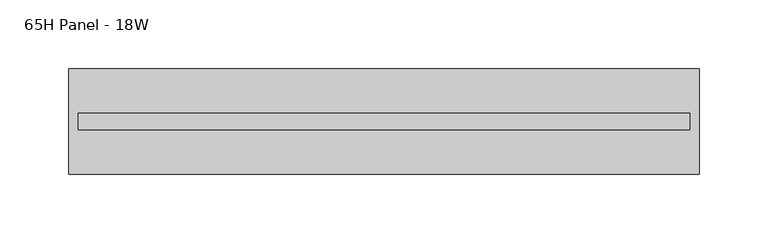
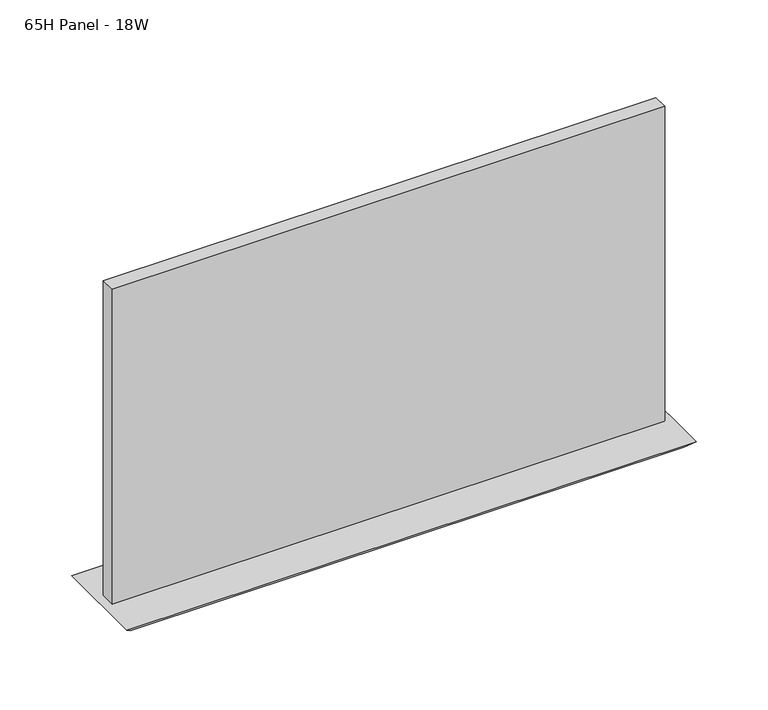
"""IFC4 building model written with IfcOpenShell, lengths in millimetres: furniture geometry, Steelcase - Montage - Tiles - 10H - Frameless Glass Stacker : 65H Panel - 18W."""

import ifcopenshell
import ifcopenshell.guid

model = None  # the IFC model being written
_history = None  # IfcOwnerHistory: only IFC2X3 demands one
_inside = {}  # id of a spatial element -> (the spatial element, [elements in it])
_under = {}  # id of a project, library or spatial element -> (it, [spatial elements below it])
_declared = {}  # id of a project -> (the project, [libraries it declares])
_typed = {}  # id of a type object -> (the type object, [elements of that type])
_made_of = {}  # id of a material, layer set ... -> (it, [elements and type objects made of it])


def new_model(schema):
    """Start an empty IFC model of exactly this schema.

    Asked for "IFC4X3", IfcOpenShell would pick the latest addendum, in which some entities
    have other attributes; the version numbers below select the first issue.
    IFC2X3 requires an IfcOwnerHistory on every rooted entity: one is made here for all.
    """
    global model, _history
    if schema == "IFC4X3":
        model = ifcopenshell.file(schema_version=(4, 3, 0, 0))
    else:
        model = ifcopenshell.file(schema=schema)
    _inside.clear()
    _under.clear()
    _declared.clear()
    _typed.clear()
    _made_of.clear()
    _history = None
    if model.schema == "IFC2X3":
        org = make("IfcOrganization", Name="unknown")
        user = make(
            "IfcPersonAndOrganization",
            ThePerson=make("IfcPerson", FamilyName="unknown"),
            TheOrganization=org,
        )
        app = make(
            "IfcApplication",
            ApplicationDeveloper=org,
            Version="unknown",
            ApplicationFullName="unknown",
            ApplicationIdentifier="unknown",
        )
        _history = make(
            "IfcOwnerHistory",
            OwningUser=user,
            OwningApplication=app,
            ChangeAction="ADDED",
            CreationDate=0,
        )
    return model


def make(cls, **values):
    """One entity of the class cls with the attributes given. An attribute that is None is left unset."""
    return model.create_entity(
        cls, **{name: value for name, value in values.items() if value is not None}
    )


def rooted(cls, **values):
    """An entity with a GlobalId (a new one), such as an element, a storey or a relation."""
    return make(cls, GlobalId=ifcopenshell.guid.new(), OwnerHistory=_history, **values)


def si_unit(unit_type, name, prefix=None):
    """IfcSIUnit, for example si_unit("LENGTHUNIT", "METRE", prefix="MILLI")."""
    return make("IfcSIUnit", UnitType=unit_type, Prefix=prefix, Name=name)


def assignment(units):
    """IfcUnitAssignment: the units of a project."""
    return None if units is None else make("IfcUnitAssignment", Units=units)


def point(xyz):
    """IfcCartesianPoint."""
    return None if xyz is None else make("IfcCartesianPoint", Coordinates=xyz)


def direction(xyz):
    """IfcDirection."""
    return None if xyz is None else make("IfcDirection", DirectionRatios=xyz)


def frame(location, z_axis=None, x_axis=None):
    """IfcAxis2Placement3D, a coordinate frame: its origin and axes. An axis left out is left unset."""
    return make(
        "IfcAxis2Placement3D",
        Location=point(location),
        Axis=direction(z_axis),
        RefDirection=direction(x_axis),
    )


def origin():
    """The frame at (0, 0, 0) with its axes left unset."""
    return frame((0.0, 0.0, 0.0))


def place(relative_to, where):
    """IfcLocalPlacement: puts the frame where relative to a parent placement (None: the world)."""
    return make(
        "IfcLocalPlacement", PlacementRelTo=relative_to, RelativePlacement=where
    )


def context(
    kind, dimensions, precision=None, world=None, true_north=None, identifier=None
):
    """IfcGeometricRepresentationContext, for example the 3D "Model" context."""
    return make(
        "IfcGeometricRepresentationContext",
        ContextIdentifier=identifier,
        ContextType=kind,
        CoordinateSpaceDimension=dimensions,
        Precision=precision,
        WorldCoordinateSystem=world,
        TrueNorth=true_north,
    )


def project(units=None, contexts=None):
    """IfcProject with its units and contexts."""
    return rooted(
        "IfcProject",
        Name="project",
        RepresentationContexts=contexts,
        UnitsInContext=assignment(units),
    )


def spatial(cls, under=None, at=None, **own):
    """A site, building, storey or space (cls), placed at a placement, below another one or the project."""
    s = rooted(cls, ObjectPlacement=at, **own)
    if under is not None:
        _under.setdefault(under.id(), (under, []))[1].append(s)
    return s


def polyline(points):
    """IfcPolyline through the points."""
    return make("IfcPolyline", Points=[point(p) for p in points])


def outline(outer, holes=None, kind="AREA"):
    """IfcArbitraryClosedProfileDef: a profile drawn as a closed curve; with holes, ...WithVoids."""
    if holes is None:
        return make("IfcArbitraryClosedProfileDef", ProfileType=kind, OuterCurve=outer)
    return make(
        "IfcArbitraryProfileDefWithVoids",
        ProfileType=kind,
        OuterCurve=outer,
        InnerCurves=holes,
    )


def extrude(swept, where, along, depth):
    """IfcExtrudedAreaSolid: the profile swept, set in the frame where, extruded along a direction by depth."""
    return make(
        "IfcExtrudedAreaSolid",
        SweptArea=swept,
        Position=where,
        ExtrudedDirection=direction(along),
        Depth=depth,
    )


def faces_of(points, faces, orient=None, outer=None):
    """IfcFace entities. A face is a list of loops; a loop is a list of indices into points, from 0.

    orient and outer hold one flag for each loop. By default every Orientation is true, the
    first loop of a face is its IfcFaceOuterBound and the others are IfcFaceBound.
    """
    made = []
    for i, loops in enumerate(faces):
        bounds = []
        for j, loop in enumerate(loops):
            is_outer = j == 0 if outer is None else outer[i][j]
            bounds.append(
                make(
                    "IfcFaceOuterBound" if is_outer else "IfcFaceBound",
                    Bound=make("IfcPolyLoop", Polygon=[points[k] for k in loop]),
                    Orientation=True if orient is None else orient[i][j],
                )
            )
        made.append(make("IfcFace", Bounds=bounds))
    return made


def faceted_brep(points, faces, orient=None, outer=None, voids=None):
    """IfcFacetedBrep: a solid bounded by flat faces; with voids (closed shells), ...WithVoids."""
    shared = [point(p) for p in points]
    hull = make("IfcClosedShell", CfsFaces=faces_of(shared, faces, orient, outer))
    if voids is None:
        return make("IfcFacetedBrep", Outer=hull)
    return make(
        "IfcFacetedBrepWithVoids",
        Outer=hull,
        Voids=[
            make(cls, CfsFaces=faces_of(shared, fs, o, b)) for cls, fs, o, b in voids
        ],
    )


def shape(context_of_items, identifier, shape_type, items):
    """IfcShapeRepresentation: the items that make up one representation, for example the "Body"."""
    return make(
        "IfcShapeRepresentation",
        ContextOfItems=context_of_items,
        RepresentationIdentifier=identifier,
        RepresentationType=shape_type,
        Items=items,
    )


def source(mapping_origin, context_of_items, identifier, shape_type, items):
    """IfcRepresentationMap: a shape defined once, which mapped items show again and again."""
    return make(
        "IfcRepresentationMap",
        MappingOrigin=mapping_origin,
        MappedRepresentation=shape(context_of_items, identifier, shape_type, items),
    )


def transform(
    local_origin,
    x_axis=None,
    y_axis=None,
    z_axis=None,
    scale=None,
    scale2=None,
    scale3=None,
    uniform=True,
):
    """IfcCartesianTransformationOperator3D, or its non-uniform kind. x_axis, y_axis, z_axis: its Axis1, 2, 3."""
    if uniform:
        return make(
            "IfcCartesianTransformationOperator3D",
            Axis1=direction(x_axis),
            Axis2=direction(y_axis),
            LocalOrigin=point(local_origin),
            Scale=scale,
            Axis3=direction(z_axis),
        )
    return make(
        "IfcCartesianTransformationOperator3DnonUniform",
        Axis1=direction(x_axis),
        Axis2=direction(y_axis),
        LocalOrigin=point(local_origin),
        Scale=scale,
        Axis3=direction(z_axis),
        Scale2=scale2,
        Scale3=scale3,
    )


def mapped(mapping_source, mapping_target):
    """IfcMappedItem: shows the shape of a source again, moved by a transform."""
    return make(
        "IfcMappedItem", MappingSource=mapping_source, MappingTarget=mapping_target
    )


def made_of(thing, what):
    """Note that an element or type object is made of a material, layer set ...; save() writes the relation."""
    if what is not None:
        _made_of.setdefault(what.id(), (what, []))[1].append(thing)
    return thing


def element(
    cls,
    number,
    at=None,
    inside=None,
    cuts=None,
    type_object=None,
    material=None,
    context=None,
    identifier="Body",
    shape_type=None,
    held_by="IfcProductDefinitionShape",
    body=None,
    shapes=None,
    **own,
):
    """One element of the class cls, such as IfcWall. Its Tag is "e" and its number.

    at: its placement. inside: the storey or other place that contains it. cuts: it is an
    opening in that element (IfcRelVoidsElement). A single representation is given by context,
    identifier, shape_type and body (its items); several are given by shapes. held_by: the class
    of the entity that holds the representations. save() writes the other relations.
    """
    e = rooted(cls, Tag="e%d" % number, ObjectPlacement=at, **own)
    if body is not None:
        shapes = [shape(context, identifier, shape_type, body)]
    if shapes is not None:
        e.Representation = make(held_by, Representations=shapes)
    if inside is not None:
        _inside.setdefault(inside.id(), (inside, []))[1].append(e)
    if cuts is not None:
        rooted(
            "IfcRelVoidsElement", RelatingBuildingElement=cuts, RelatedOpeningElement=e
        )
    if type_object is not None:
        _typed.setdefault(type_object.id(), (type_object, []))[1].append(e)
    return made_of(e, material)


def aggregate(whole, parts):
    """IfcRelAggregates: a whole, such as a stair, and the parts it consists of."""
    return rooted("IfcRelAggregates", RelatingObject=whole, RelatedObjects=parts)


def save(model, path):
    """Write the relations noted so far, then the file.

    IfcRelAggregates (storeys below a building ...), IfcRelContainedInSpatialStructure (elements
    in a storey), IfcRelDefinesByType, IfcRelAssociatesMaterial and IfcRelDeclares: one each for
    every whole, place, type object, material and project.
    """
    for whole, parts in _under.values():
        aggregate(whole, parts)
    for where, things in _inside.values():
        rooted(
            "IfcRelContainedInSpatialStructure",
            RelatedElements=things,
            RelatingStructure=where,
        )
    for kind, things in _typed.values():
        rooted("IfcRelDefinesByType", RelatedObjects=things, RelatingType=kind)
    for what, things in _made_of.values():
        rooted("IfcRelAssociatesMaterial", RelatedObjects=things, RelatingMaterial=what)
    for by, libraries in _declared.values():
        rooted("IfcRelDeclares", RelatingContext=by, RelatedDefinitions=libraries)
    model.write(path)


def furniture_65h_panel_18w_d44ed53c(model_context):
    return source(origin(), model_context, "Body", "SolidModel", [
        faceted_brep([(457.2, -38.1000015, 1660.525), (0.0, -38.1000015, 1660.525), (6.35, -31.7500015, 1654.175), (450.85, -31.7500015, 1654.175), (6.35, 31.7500015, 1654.175), (450.85, 31.7500015, 1654.175), (0.0, 38.1000015, 1660.525), (457.2, 38.1000015, 1660.525)], [[[0, 1, 2, 3]], [[3, 2, 4, 5]], [[6, 7, 5, 4]], [[1, 0, 7, 6]], [[2, 1, 6, 4]], [[0, 3, 5, 7]]]),
        extrude(outline(polyline([(450.4181828, -5.9944001), (6.7818001, -5.9944001), (6.7818001, 5.9944008), (450.4181828, 5.9944008), (450.4181828, -5.9944001)])), frame((0.0, 0.0, 1660.525), z_axis=(0.0, 0.0, 1.0), x_axis=(1.0, 0.0, 0.0)), (0.0, 0.0, 1.0), 267.7160475),
    ])


if __name__ == "__main__":
    model = new_model("IFC4")
    model_context = context("Model", 3, world=origin())
    ifc_project = project(units=[si_unit("LENGTHUNIT", "METRE", prefix="MILLI")], contexts=[model_context])
    site = spatial("IfcSite", under=ifc_project)
    building = spatial("IfcBuilding", under=site)
    placement = place(None, origin())
    furniture_65h_panel_18w_shape = furniture_65h_panel_18w_d44ed53c(model_context)
    element("IfcFurniture", 1, ObjectType="Steelcase - Montage - Tiles - 10H - Frameless Glass Stacker : 65H Panel - 18W", at=placement, inside=building, context=model_context, shape_type="MappedRepresentation", body=[
        mapped(furniture_65h_panel_18w_shape, transform((0.0, 0.0, 0.0), x_axis=(1.0, 0.0, 0.0), y_axis=(0.0, 1.0, 0.0), z_axis=(0.0, 0.0, 1.0))),
    ])
    save(model, "model.ifc")
